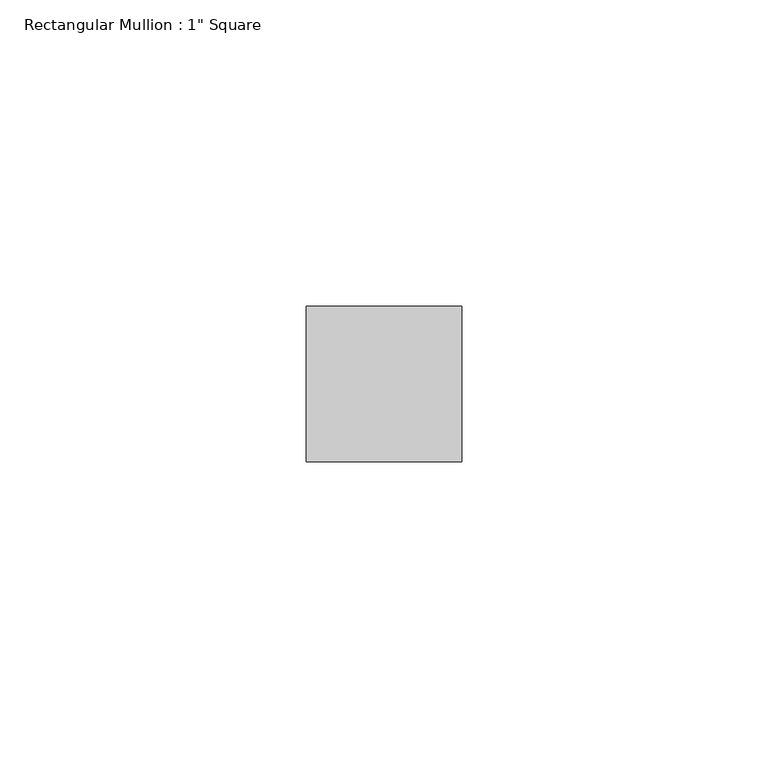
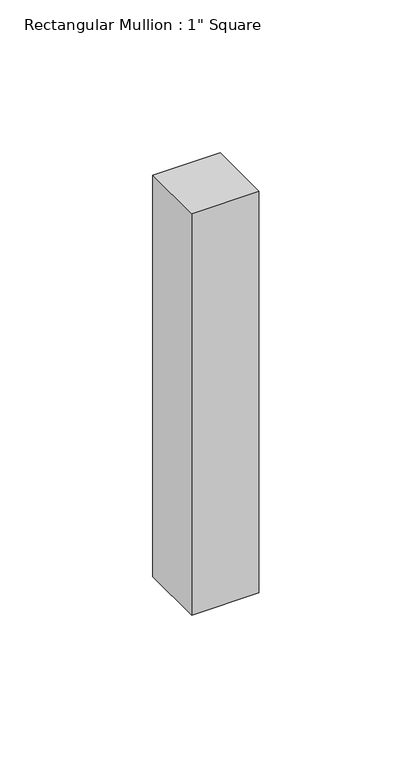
"""IFC4 building model written with IfcOpenShell, lengths in millimetres: member geometry."""

from ifc_helpers import new_model, si_unit, frame, origin, place, context, project, spatial, polyline, outline, extrude, source, transform, mapped, element, save


def member_cc44513a(model_context):
    return source(origin(), model_context, "Body", "SweptSolid", [
        extrude(outline(polyline([(12.7, 12.7), (12.7, -12.7), (-12.7, -12.7), (-12.7, 12.7), (12.7, 12.7)])), frame((0.0, 0.0, -160.4333081), z_axis=(0.0, 0.0, 1.0), x_axis=(1.0, 0.0, 0.0)), (0.0, 0.0, 1.0), 160.4333081),
    ])


if __name__ == "__main__":
    model = new_model("IFC4")
    model_context = context("Model", 3, world=origin())
    ifc_project = project(units=[si_unit("LENGTHUNIT", "METRE", prefix="MILLI")], contexts=[model_context])
    site = spatial("IfcSite", under=ifc_project)
    building = spatial("IfcBuilding", under=site)
    placement = place(None, origin())
    member_shape = member_cc44513a(model_context)
    element("IfcMember", 1, ObjectType="Rectangular Mullion : 1\" Square", at=placement, inside=building, context=model_context, shape_type="MappedRepresentation", body=[
        mapped(member_shape, transform((0.0, 0.0, 0.0), x_axis=(1.0, 0.0, 0.0), y_axis=(0.0, 1.0, 0.0), z_axis=(0.0, 0.0, 1.0))),
    ])
    save(model, "model.ifc")
